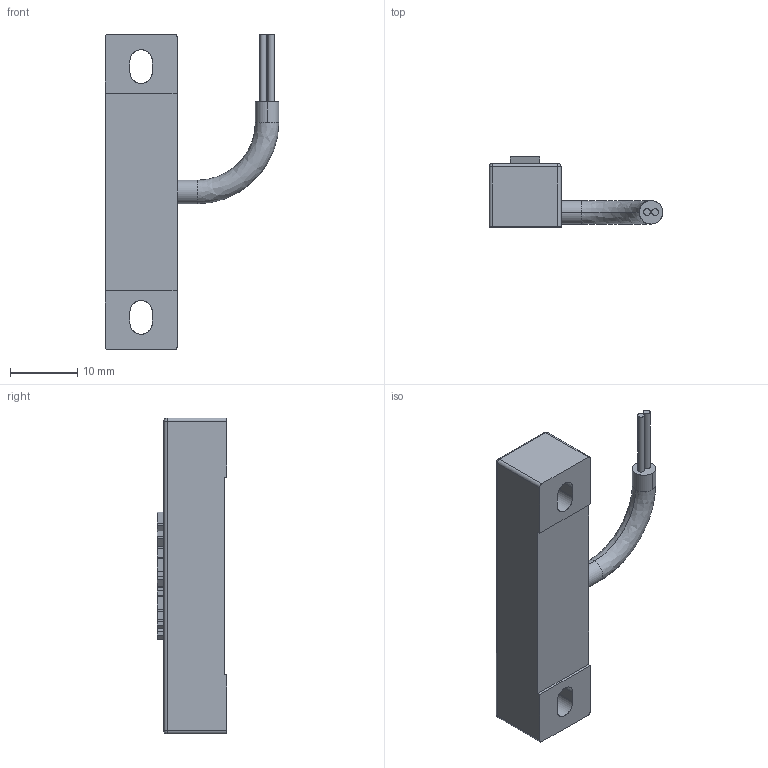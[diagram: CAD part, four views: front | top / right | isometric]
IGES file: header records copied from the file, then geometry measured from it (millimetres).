
Start section: SolidWorks IGES file using analytic representation for surfaces
Global section: file name: D:\X - Arquivos\PROEX\Empresas\P11 - METALTEX\01 - Produtos\IGES\7ª remessa\2ª etapa\SM2325.IGS; native system: SolidWorks 2012; preprocessor: SolidWorks 2012; author: Usuario; date: 190912.140551; units: millimetre
Bounding box: 25.85 x 10.4 x 47 mm (x, y, z)
Surface area: 2887.2 mm2 (no closed solid volume)
Topology: 0 solids, 0 shells, 157 faces, 1171 edges, 1166 vertices
Faces by surface type: bspline 125, revolution 32
